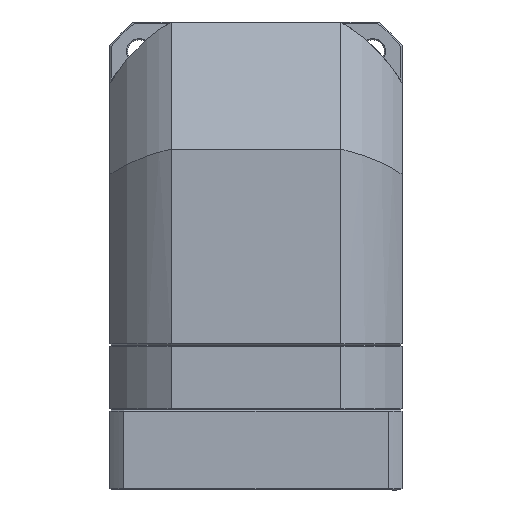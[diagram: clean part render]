
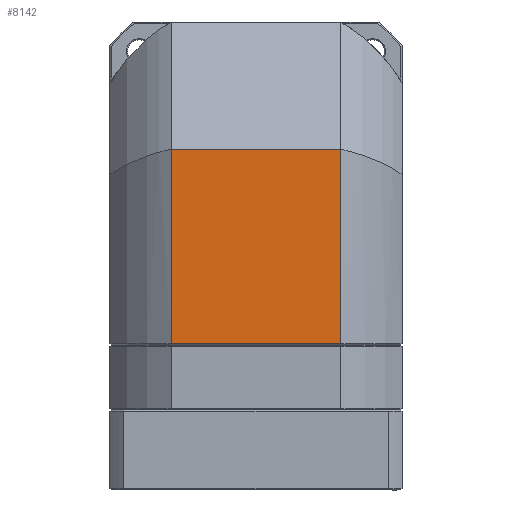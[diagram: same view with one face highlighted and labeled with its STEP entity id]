
A CAD part, front view. The second image highlights one B-rep face of the part: STEP entity #8142.
In plain terms, the highlighted planar face has unit normal (0, 1, 0).
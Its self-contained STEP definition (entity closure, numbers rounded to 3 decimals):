
#958 = FACE_OUTER_BOUND ( 'NONE', #61604, .T. ) ;
#4474 = DIRECTION ( 'NONE',  ( 0., -1., 0. ) ) ;
#4774 = AXIS2_PLACEMENT_3D ( 'NONE', #51958, #4474, #59884 ) ;
#8142 = ADVANCED_FACE ( 'NONE', ( #958 ), #43374, .F. ) ;
#10210 = CARTESIAN_POINT ( 'NONE',  ( -33.407, -216.611, -69.2 ) ) ;
#11363 = LINE ( 'NONE', #18445, #90157 ) ;
#15386 = ORIENTED_EDGE ( 'NONE', *, *, #25273, .T. ) ;
#18445 = CARTESIAN_POINT ( 'NONE',  ( 0., -216.611, 7.5 ) ) ;
#22219 = CARTESIAN_POINT ( 'NONE',  ( -33.407, -216.611, -30.62 ) ) ;
#25273 = EDGE_CURVE ( 'NONE', #69774, #81715, #11363, .T. ) ;
#26439 = ORIENTED_EDGE ( 'NONE', *, *, #71069, .T. ) ;
#27355 = LINE ( 'NONE', #93451, #87495 ) ;
#30856 = EDGE_CURVE ( 'NONE', #98545, #81715, #91756, .T. ) ;
#35276 = ORIENTED_EDGE ( 'NONE', *, *, #30856, .F. ) ;
#36309 = CARTESIAN_POINT ( 'NONE',  ( 33.407, -216.611, 7.5 ) ) ;
#38290 = ORIENTED_EDGE ( 'NONE', *, *, #98128, .F. ) ;
#41549 = LINE ( 'NONE', #22219, #85590 ) ;
#42603 = CARTESIAN_POINT ( 'NONE',  ( -33.407, -216.611, 7.5 ) ) ;
#43374 = PLANE ( 'NONE',  #4774 ) ;
#44078 = DIRECTION ( 'NONE',  ( 0., 0., 1. ) ) ;
#51958 = CARTESIAN_POINT ( 'NONE',  ( -33.407, -216.611, -69.2 ) ) ;
#52635 = VECTOR ( 'NONE', #93182, 1000. ) ;
#59884 = DIRECTION ( 'NONE',  ( 1., 0., 0. ) ) ;
#61604 = EDGE_LOOP ( 'NONE', ( #35276, #38290, #26439, #15386 ) ) ;
#62992 = VERTEX_POINT ( 'NONE', #10210 ) ;
#69774 = VERTEX_POINT ( 'NONE', #42603 ) ;
#71069 = EDGE_CURVE ( 'NONE', #62992, #69774, #41549, .T. ) ;
#81715 = VERTEX_POINT ( 'NONE', #36309 ) ;
#85590 = VECTOR ( 'NONE', #44078, 1000. ) ;
#87495 = VECTOR ( 'NONE', #101357, 1000. ) ;
#90157 = VECTOR ( 'NONE', #96777, 1000. ) ;
#90988 = CARTESIAN_POINT ( 'NONE',  ( 33.407, -216.611, -69.2 ) ) ;
#91756 = LINE ( 'NONE', #99746, #52635 ) ;
#93182 = DIRECTION ( 'NONE',  ( 0., 0., 1. ) ) ;
#93451 = CARTESIAN_POINT ( 'NONE',  ( 0., -216.611, -69.2 ) ) ;
#96777 = DIRECTION ( 'NONE',  ( 1., 0., 0. ) ) ;
#98128 = EDGE_CURVE ( 'NONE', #62992, #98545, #27355, .T. ) ;
#98545 = VERTEX_POINT ( 'NONE', #90988 ) ;
#99746 = CARTESIAN_POINT ( 'NONE',  ( 33.407, -216.611, -30.85 ) ) ;
#101357 = DIRECTION ( 'NONE',  ( 1., 0., 0. ) ) ;
